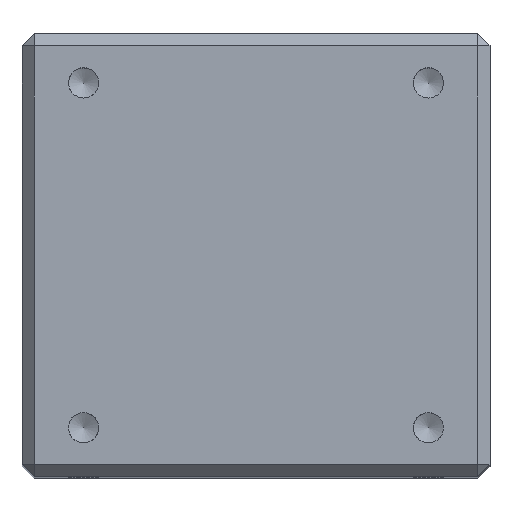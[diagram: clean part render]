
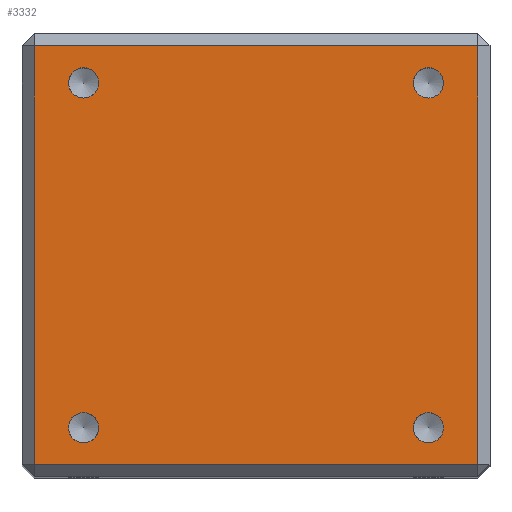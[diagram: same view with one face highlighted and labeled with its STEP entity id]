
A CAD part, top view. The second image highlights one B-rep face of the part: STEP entity #3332.
In plain terms, the highlighted planar face has unit normal (0, 0, 1).
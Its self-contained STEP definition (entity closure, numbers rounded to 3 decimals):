
#766=LINE('',#13297,#1808);
#767=LINE('',#13300,#1809);
#768=LINE('',#13302,#1810);
#769=LINE('',#13304,#1811);
#1808=VECTOR('',#10990,1.);
#1809=VECTOR('',#10991,1.);
#1810=VECTOR('',#10992,1.);
#1811=VECTOR('',#10993,1.);
#2964=PLANE('',#10417);
#3332=ADVANCED_FACE('',(#4292,#4293,#4294,#4295,#4296),#2964,.T.);
#4292=FACE_BOUND('',#4518,.T.);
#4293=FACE_BOUND('',#4519,.T.);
#4294=FACE_BOUND('',#4520,.T.);
#4295=FACE_BOUND('',#4521,.T.);
#4296=FACE_BOUND('',#4522,.T.);
#4518=EDGE_LOOP('',(#5199,#5200,#5201,#5202));
#4519=EDGE_LOOP('',(#5203));
#4520=EDGE_LOOP('',(#5204));
#4521=EDGE_LOOP('',(#5205));
#4522=EDGE_LOOP('',(#5206));
#5199=ORIENTED_EDGE('',*,*,#8941,.T.);
#5200=ORIENTED_EDGE('',*,*,#8942,.T.);
#5201=ORIENTED_EDGE('',*,*,#8943,.T.);
#5202=ORIENTED_EDGE('',*,*,#8944,.T.);
#5203=ORIENTED_EDGE('',*,*,#8945,.T.);
#5204=ORIENTED_EDGE('',*,*,#8946,.T.);
#5205=ORIENTED_EDGE('',*,*,#8947,.T.);
#5206=ORIENTED_EDGE('',*,*,#8948,.T.);
#7985=VERTEX_POINT('',#13298);
#7986=VERTEX_POINT('',#13299);
#7987=VERTEX_POINT('',#13301);
#7988=VERTEX_POINT('',#13303);
#7989=VERTEX_POINT('',#13306);
#7990=VERTEX_POINT('',#13308);
#7991=VERTEX_POINT('',#13310);
#7992=VERTEX_POINT('',#13312);
#8941=EDGE_CURVE('',#7985,#7986,#766,.T.);
#8942=EDGE_CURVE('',#7986,#7987,#767,.T.);
#8943=EDGE_CURVE('',#7987,#7988,#768,.T.);
#8944=EDGE_CURVE('',#7988,#7985,#769,.T.);
#8945=EDGE_CURVE('',#7989,#7989,#10331,.T.);
#8946=EDGE_CURVE('',#7990,#7990,#10332,.T.);
#8947=EDGE_CURVE('',#7991,#7991,#10333,.T.);
#8948=EDGE_CURVE('',#7992,#7992,#10334,.T.);
#10331=CIRCLE('',#10413,1.23);
#10332=CIRCLE('',#10414,1.23);
#10333=CIRCLE('',#10415,1.23);
#10334=CIRCLE('',#10416,1.23);
#10413=AXIS2_PLACEMENT_3D('',#13305,#10994,#10995);
#10414=AXIS2_PLACEMENT_3D('',#13307,#10996,#10997);
#10415=AXIS2_PLACEMENT_3D('',#13309,#10998,#10999);
#10416=AXIS2_PLACEMENT_3D('',#13311,#11000,#11001);
#10417=AXIS2_PLACEMENT_3D('',#13313,#11002,#11003);
#10990=DIRECTION('',(1.,0.,0.));
#10991=DIRECTION('',(0.,1.,0.));
#10992=DIRECTION('',(-1.,0.,0.));
#10993=DIRECTION('',(0.,-1.,0.));
#10994=DIRECTION('',(0.,0.,-1.));
#10995=DIRECTION('',(-1.,0.,0.));
#10996=DIRECTION('',(0.,0.,-1.));
#10997=DIRECTION('',(-1.,0.,0.));
#10998=DIRECTION('',(0.,0.,-1.));
#10999=DIRECTION('',(-1.,0.,0.));
#11000=DIRECTION('',(0.,0.,-1.));
#11001=DIRECTION('',(-1.,0.,0.));
#11002=DIRECTION('',(0.,0.,1.));
#11003=DIRECTION('',(1.,0.,0.));
#13297=CARTESIAN_POINT('',(19.,1.,67.));
#13298=CARTESIAN_POINT('',(1.,1.,67.));
#13299=CARTESIAN_POINT('',(37.,1.,67.));
#13300=CARTESIAN_POINT('',(37.,18.,67.));
#13301=CARTESIAN_POINT('',(37.,35.,67.));
#13302=CARTESIAN_POINT('',(19.,35.,67.));
#13303=CARTESIAN_POINT('',(1.,35.,67.));
#13304=CARTESIAN_POINT('',(1.,18.,67.));
#13305=CARTESIAN_POINT('',(33.,32.,67.));
#13306=CARTESIAN_POINT('',(31.77,32.,67.));
#13307=CARTESIAN_POINT('',(33.,4.,67.));
#13308=CARTESIAN_POINT('',(31.77,4.,67.));
#13309=CARTESIAN_POINT('',(5.,32.,67.));
#13310=CARTESIAN_POINT('',(3.77,32.,67.));
#13311=CARTESIAN_POINT('',(5.,4.,67.));
#13312=CARTESIAN_POINT('',(3.77,4.,67.));
#13313=CARTESIAN_POINT('',(19.,18.,67.));
